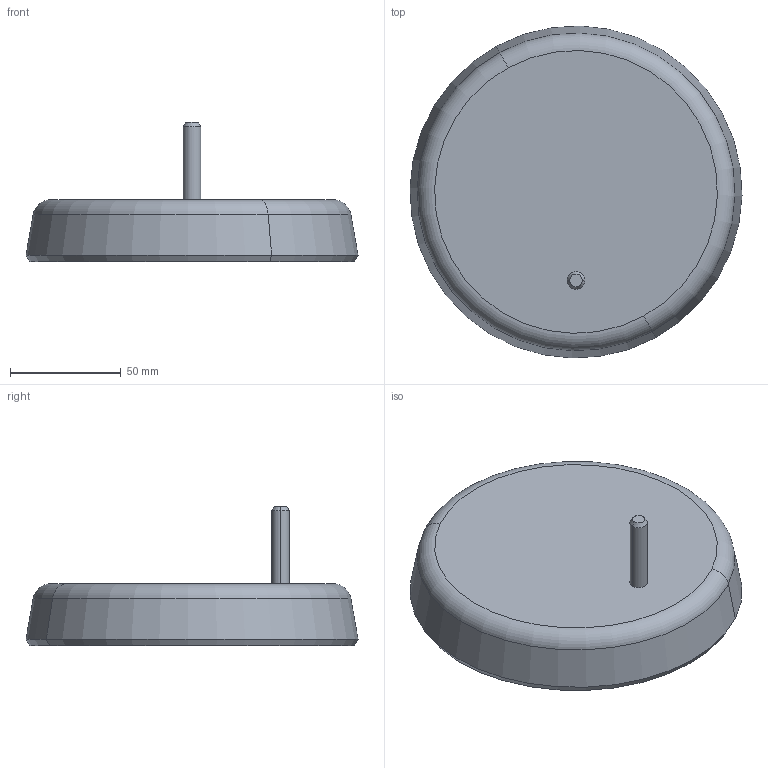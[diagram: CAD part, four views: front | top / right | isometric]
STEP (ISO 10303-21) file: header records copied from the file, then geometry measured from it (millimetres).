
FILE_DESCRIPTION(('CATIA V5 STEP Exchange'),'2;1');
FILE_NAME('E:\Etudes_avions\Sites_web\Apprendre_la_CAO\Sujets\Lampe bureau\Pied.stp','2017-08-03T16:24:03+00:00',('none'),('none'),'CATIA Version 5 Release 21 GA (IN-10)','CATIA V5 STEP AP203','none');
FILE_SCHEMA(('CONFIG_CONTROL_DESIGN'));
Length unit declared in the file: millimetre
Products named in the file (1): Pied
Bounding box: 149.96 x 149.96 x 63 mm (x, y, z)
Volume: 424370.2 mm3; surface area: 46299.2 mm2
Topology: 1 solids, 1 shells, 16 faces, 30 edges, 18 vertices
Faces by surface type: cone 8, plane 4, torus 2, cylinder 2
Entity records: 403 total; most frequent: CARTESIAN_POINT 60, ORIENTED_EDGE 60, DIRECTION 52, AXIS2_PLACEMENT_3D 32, EDGE_CURVE 30, CIRCLE 20, EDGE_LOOP 18, VERTEX_POINT 18
